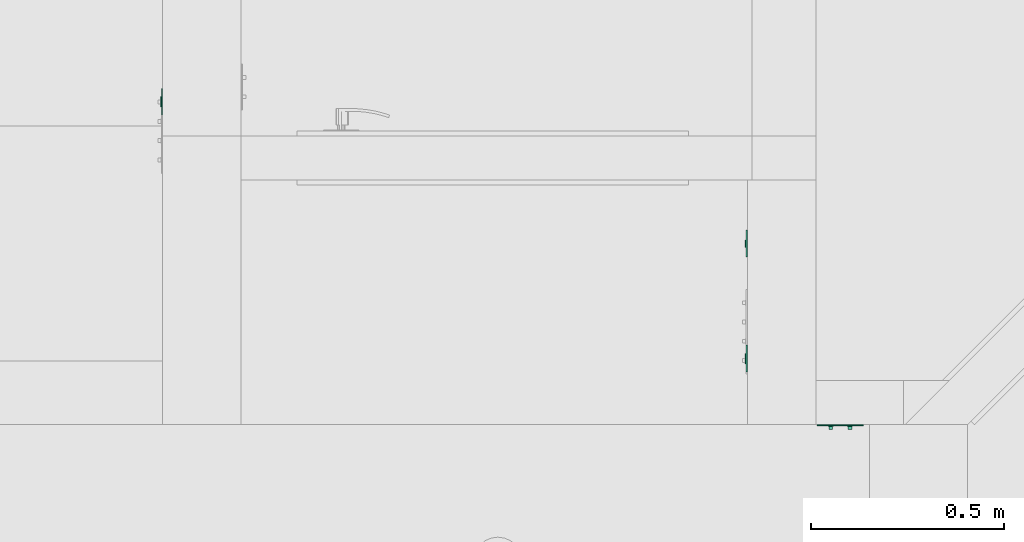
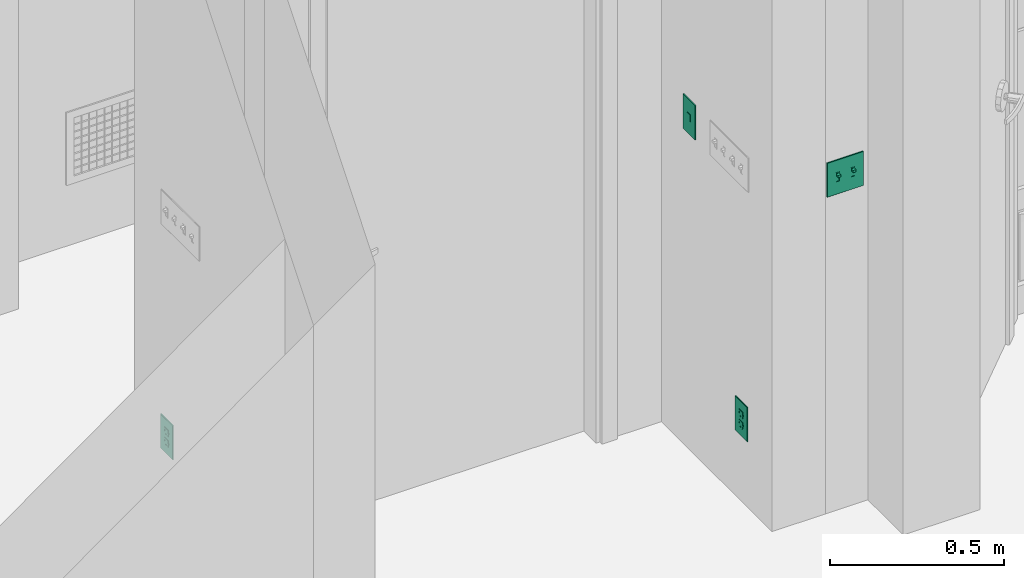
# One storey, part 21 of 103: 4 flow controllers.
"""IFC2X3 building model written with IfcOpenShell, lengths in inches."""

from ifc_helpers import new_model, entity, si_unit, converted_unit, derived_unit, money_unit, direction, frame, origin_with_axes, place, context, subcontext, project, spatial, faceted_brep, source, transform, mapped, type_object, element, save


model = new_model("IFC2X3")

# Units and contexts
model_context = context("Model", 3, precision=0.00039370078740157, world=origin_with_axes(), true_north=direction((0.0, 1.0)))
plan_context = context("Plan", 3, precision=0.00039370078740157, world=origin_with_axes(), true_north=direction((0.0, 1.0)))
body_context = subcontext(model_context, "Body", "Model", "MODEL_VIEW")
ifc_project = project(units=[converted_unit("LENGTHUNIT", "INCH", entity("IfcPositiveLengthMeasure", 0.0254), si_unit("LENGTHUNIT", "METRE"), dimensions=[1, 0, 0, 0, 0, 0, 0]), converted_unit("AREAUNIT", "SQUARE_FOOT", entity("IfcPositiveLengthMeasure", 0.09290304), si_unit("AREAUNIT", "SQUARE_METRE"), dimensions=[2, 0, 0, 0, 0, 0, 0]), si_unit("PLANEANGLEUNIT", "RADIAN"), si_unit("SOLIDANGLEUNIT", "STERADIAN"), money_unit("USD"), converted_unit("TIMEUNIT", "Year", entity("IfcTimeMeasure", 31557600.0), si_unit("TIMEUNIT", "SECOND"), dimensions=[0, 0, 1, 0, 0, 0, 0]), si_unit("MASSUNIT", "GRAM", prefix="KILO"), si_unit("THERMODYNAMICTEMPERATUREUNIT", "DEGREE_CELSIUS"), si_unit("LUMINOUSINTENSITYUNIT", "LUMEN"), si_unit("ENERGYUNIT", "JOULE", prefix="MEGA"), derived_unit("SPECIFICHEATCAPACITYUNIT", [(si_unit("ENERGYUNIT", "JOULE"), 1), (si_unit("MASSUNIT", "GRAM", prefix="KILO"), -1), (si_unit("THERMODYNAMICTEMPERATUREUNIT", "KELVIN"), -1)])], contexts=[model_context, plan_context])

# Site, building, storey
site_placement = place(None, origin_with_axes())
site = spatial("IfcSite", under=ifc_project, at=site_placement, Name="Site", CompositionType="ELEMENT")
building_placement = place(site_placement, origin_with_axes())
building = spatial("IfcBuilding", under=site, at=building_placement, Name="Building", CompositionType="ELEMENT")
storey_placement = place(building_placement, frame((0.0, 0.0, 127.9999999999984), z_axis=(0.0, 0.0, 1.0), x_axis=(1.0, 0.0, 0.0)))
storey = spatial("IfcBuildingStorey", under=building, at=storey_placement, Name="Second Floor", CompositionType="ELEMENT", Elevation=128.0)

# Flow controllers
switching_device_type_1 = type_object("IfcSwitchingDeviceType", Name="Outlet 1 US", PredefinedType="NOTDEFINED")
shared_shape_1 = source(origin_with_axes(), body_context, "Body", "Brep", [
    faceted_brep([(0.39370078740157, -0.03444881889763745, -1.18110236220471), (0.5436477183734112, -0.03444881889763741, -0.7086614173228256), (0.5436477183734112, -0.2165354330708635, -0.7086614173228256), (0.39370078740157, -0.2165354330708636, -1.18110236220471), (-0.3937007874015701, -0.03444881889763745, -1.181102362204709), (-0.543647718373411, -0.03444881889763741, -0.7086614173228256), (-0.39370078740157, -0.03444881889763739, -0.2362204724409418), (0.3937007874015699, -0.03444881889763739, -0.2362204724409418), (-0.196850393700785, -0.03444881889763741, -0.7086614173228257), (-0.196850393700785, -0.0344488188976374, -0.4724409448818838), (-0.275590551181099, -0.0344488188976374, -0.4724409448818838), (-0.275590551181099, -0.03444881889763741, -0.7086614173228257), (0.196850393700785, -0.03444881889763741, -0.7086614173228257), (0.275590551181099, -0.03444881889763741, -0.7086614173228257), (0.275590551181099, -0.0344488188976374, -0.4724409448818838), (0.196850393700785, -0.0344488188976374, -0.4724409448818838), (-0.078740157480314, -0.03444881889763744, -1.102362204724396), (0.078740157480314, -0.03444881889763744, -1.102362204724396), (0.078740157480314, -0.03444881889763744, -1.023622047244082), (0.06819097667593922, -0.03444881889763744, -0.9842519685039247), (0.03937007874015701, -0.03444881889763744, -0.9554310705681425), (0.0, -0.03444881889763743, -0.9448818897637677), (-0.03937007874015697, -0.03444881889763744, -0.9554310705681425), (-0.06819097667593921, -0.03444881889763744, -0.9842519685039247), (-0.078740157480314, -0.03444881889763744, -1.023622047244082), (0.3937007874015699, -0.2165354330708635, -0.2362204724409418), (-0.39370078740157, -0.2165354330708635, -0.2362204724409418), (-0.543647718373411, -0.2165354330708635, -0.7086614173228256), (-0.3937007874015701, -0.2165354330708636, -1.181102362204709), (-0.196850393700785, -0.2165354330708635, -0.7086614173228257), (-0.275590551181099, -0.2165354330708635, -0.7086614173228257), (-0.275590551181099, -0.2165354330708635, -0.4724409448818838), (-0.196850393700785, -0.2165354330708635, -0.4724409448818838), (0.196850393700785, -0.2165354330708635, -0.7086614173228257), (0.196850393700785, -0.2165354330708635, -0.4724409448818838), (0.275590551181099, -0.2165354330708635, -0.4724409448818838), (0.275590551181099, -0.2165354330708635, -0.7086614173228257), (-0.078740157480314, -0.2165354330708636, -1.102362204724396), (-0.078740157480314, -0.2165354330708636, -1.023622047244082), (-0.06819097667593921, -0.2165354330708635, -0.9842519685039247), (-0.03937007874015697, -0.2165354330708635, -0.9554310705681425), (0.0, -0.2165354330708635, -0.9448818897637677), (0.03937007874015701, -0.2165354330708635, -0.9554310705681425), (0.06819097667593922, -0.2165354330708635, -0.9842519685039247), (0.078740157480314, -0.2165354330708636, -1.023622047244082), (0.078740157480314, -0.2165354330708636, -1.102362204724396)], [[[0, 1, 2, 3]], [[0, 4, 5, 6, 7, 1], [8, 9, 10, 11], [12, 13, 14, 15], [16, 17, 18, 19, 20, 21, 22, 23, 24]], [[1, 7, 25, 2]], [[3, 2, 25, 26, 27, 28], [29, 30, 31, 32], [33, 34, 35, 36], [37, 38, 39, 40, 41, 42, 43, 44, 45]], [[4, 0, 3, 28]], [[5, 4, 28, 27]], [[6, 5, 27, 26]], [[7, 6, 26, 25]], [[9, 8, 29, 32]], [[10, 9, 32, 31]], [[11, 10, 31, 30]], [[8, 11, 30, 29]], [[13, 12, 33, 36]], [[14, 13, 36, 35]], [[15, 14, 35, 34]], [[12, 15, 34, 33]], [[17, 16, 37, 45]], [[18, 17, 45, 44]], [[19, 18, 44, 43]], [[20, 19, 43, 42]], [[21, 20, 42, 41]], [[22, 21, 41, 40]], [[23, 22, 40, 39]], [[24, 23, 39, 38]], [[16, 24, 38, 37]]]),
    faceted_brep([(0.39370078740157, -0.03444881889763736, 0.2362204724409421), (0.5436477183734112, -0.03444881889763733, 0.7086614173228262), (0.5436477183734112, -0.2165354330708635, 0.7086614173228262), (0.39370078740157, -0.2165354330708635, 0.2362204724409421), (-0.3937007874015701, -0.03444881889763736, 0.2362204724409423), (-0.543647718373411, -0.03444881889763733, 0.7086614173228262), (-0.39370078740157, -0.0344488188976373, 1.18110236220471), (0.3937007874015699, -0.0344488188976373, 1.18110236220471), (-0.196850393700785, -0.03444881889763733, 0.7086614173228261), (-0.196850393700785, -0.03444881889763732, 0.944881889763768), (-0.275590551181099, -0.03444881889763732, 0.944881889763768), (-0.275590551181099, -0.03444881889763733, 0.7086614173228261), (0.196850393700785, -0.03444881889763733, 0.7086614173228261), (0.275590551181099, -0.03444881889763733, 0.7086614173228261), (0.275590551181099, -0.03444881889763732, 0.944881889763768), (0.196850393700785, -0.03444881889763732, 0.944881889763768), (-0.078740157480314, -0.03444881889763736, 0.3149606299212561), (0.078740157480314, -0.03444881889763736, 0.3149606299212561), (0.078740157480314, -0.03444881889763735, 0.3937007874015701), (0.06819097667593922, -0.03444881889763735, 0.4330708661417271), (0.03937007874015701, -0.03444881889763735, 0.4618917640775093), (0.0, -0.03444881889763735, 0.472440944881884), (-0.03937007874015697, -0.03444881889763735, 0.4618917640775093), (-0.06819097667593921, -0.03444881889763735, 0.4330708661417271), (-0.078740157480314, -0.03444881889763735, 0.3937007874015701), (0.3937007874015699, -0.2165354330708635, 1.18110236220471), (-0.39370078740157, -0.2165354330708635, 1.18110236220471), (-0.543647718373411, -0.2165354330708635, 0.7086614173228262), (-0.3937007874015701, -0.2165354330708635, 0.2362204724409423), (-0.196850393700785, -0.2165354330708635, 0.7086614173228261), (-0.275590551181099, -0.2165354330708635, 0.7086614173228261), (-0.275590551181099, -0.2165354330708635, 0.944881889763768), (-0.196850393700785, -0.2165354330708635, 0.944881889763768), (0.196850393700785, -0.2165354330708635, 0.7086614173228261), (0.196850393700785, -0.2165354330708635, 0.944881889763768), (0.275590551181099, -0.2165354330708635, 0.944881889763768), (0.275590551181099, -0.2165354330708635, 0.7086614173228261), (-0.078740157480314, -0.2165354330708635, 0.3149606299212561), (-0.078740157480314, -0.2165354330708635, 0.3937007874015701), (-0.06819097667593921, -0.2165354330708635, 0.4330708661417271), (-0.03937007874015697, -0.2165354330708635, 0.4618917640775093), (0.0, -0.2165354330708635, 0.472440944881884), (0.03937007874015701, -0.2165354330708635, 0.4618917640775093), (0.06819097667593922, -0.2165354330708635, 0.4330708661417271), (0.078740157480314, -0.2165354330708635, 0.3937007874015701), (0.078740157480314, -0.2165354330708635, 0.3149606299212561)], [[[0, 1, 2, 3]], [[0, 4, 5, 6, 7, 1], [8, 9, 10, 11], [12, 13, 14, 15], [16, 17, 18, 19, 20, 21, 22, 23, 24]], [[1, 7, 25, 2]], [[3, 2, 25, 26, 27, 28], [29, 30, 31, 32], [33, 34, 35, 36], [37, 38, 39, 40, 41, 42, 43, 44, 45]], [[4, 0, 3, 28]], [[5, 4, 28, 27]], [[6, 5, 27, 26]], [[7, 6, 26, 25]], [[9, 8, 29, 32]], [[10, 9, 32, 31]], [[11, 10, 31, 30]], [[8, 11, 30, 29]], [[13, 12, 33, 36]], [[14, 13, 36, 35]], [[15, 14, 35, 34]], [[12, 15, 34, 33]], [[17, 16, 37, 45]], [[18, 17, 45, 44]], [[19, 18, 44, 43]], [[20, 19, 43, 42]], [[21, 20, 42, 41]], [[22, 21, 41, 40]], [[23, 22, 40, 39]], [[24, 23, 39, 38]], [[16, 24, 38, 37]]]),
    faceted_brep([(-1.343503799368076, -0.1377952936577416, -2.327755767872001), (1.343503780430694, -0.1377952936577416, -2.327755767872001), (1.343503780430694, -0.1377952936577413, 2.327755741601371), (-1.343503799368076, -0.1377952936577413, 2.327755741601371), (0.39370078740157, -0.1377952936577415, -1.18110236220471), (-0.3937007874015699, -0.1377952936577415, -1.181102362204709), (-0.5436477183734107, -0.1377952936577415, -0.7086614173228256), (-0.39370078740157, -0.1377952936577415, -0.2362204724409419), (0.3937007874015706, -0.1377952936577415, -0.2362204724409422), (0.5436477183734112, -0.1377952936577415, -0.7086614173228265), (-0.39370078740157, -0.1377952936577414, 1.18110236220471), (0.3937007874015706, -0.1377952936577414, 1.18110236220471), (0.5436477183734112, -0.1377952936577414, 0.7086614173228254), (0.39370078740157, -0.1377952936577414, 0.236220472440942), (-0.3937007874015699, -0.1377952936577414, 0.2362204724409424), (-0.5436477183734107, -0.1377952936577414, 0.7086614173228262), (-1.352419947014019, -0.1366214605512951, -2.336671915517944), (1.352419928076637, -0.1366214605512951, -2.336671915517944), (1.352419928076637, -0.1366214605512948, 2.336671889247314), (-1.352419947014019, -0.1366214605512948, 2.336671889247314), (0.39370078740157, -0.03444881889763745, -1.18110236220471), (-0.3937007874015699, -0.03444881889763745, -1.181102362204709), (-0.5436477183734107, -0.03444881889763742, -0.7086614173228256), (-0.39370078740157, -0.03444881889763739, -0.2362204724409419), (0.3937007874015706, -0.03444881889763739, -0.2362204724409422), (0.5436477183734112, -0.03444881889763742, -0.7086614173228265), (-0.39370078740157, -0.0344488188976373, 1.18110236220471), (0.3937007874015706, -0.0344488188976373, 1.18110236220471), (0.5436477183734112, -0.03444881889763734, 0.7086614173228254), (0.39370078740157, -0.03444881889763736, 0.236220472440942), (-0.3937007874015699, -0.03444881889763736, 0.2362204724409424), (-0.5436477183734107, -0.03444881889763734, 0.7086614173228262), (-1.36786294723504, -0.1277054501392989, -2.352114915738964), (1.367862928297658, -0.1277054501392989, -2.352114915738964), (1.367862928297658, -0.1277054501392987, 2.352114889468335), (-1.36786294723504, -0.1277054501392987, 2.352114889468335), (-1.376778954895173, -0.1122624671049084, -2.361030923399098), (1.376778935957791, -0.1122624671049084, -2.361030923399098), (1.376778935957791, -0.1122624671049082, 2.361030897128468), (-1.376778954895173, -0.1122624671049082, 2.361030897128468), (-1.377952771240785, -0.1033464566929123, -2.362204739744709), (1.377952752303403, -0.1033464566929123, -2.362204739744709), (1.377952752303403, -0.103346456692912, 2.36220471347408), (-1.377952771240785, -0.103346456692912, 2.36220471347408), (-1.377952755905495, 0.0, -2.36220472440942), (1.377952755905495, 0.0, -2.36220472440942), (1.377952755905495, 0.0, 2.36220472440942), (-1.377952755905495, 0.0, 2.36220472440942)], [[[0, 1, 2, 3], [4, 5, 6, 7, 8, 9], [10, 11, 12, 13, 14, 15]], [[1, 0, 16, 17]], [[2, 1, 17, 18]], [[3, 2, 18, 19]], [[0, 3, 19, 16]], [[4, 20, 21, 5]], [[5, 21, 22, 6]], [[6, 22, 23, 7]], [[7, 23, 24, 8]], [[8, 24, 25, 9]], [[9, 25, 20, 4]], [[11, 10, 26, 27]], [[12, 11, 27, 28]], [[13, 12, 28, 29]], [[14, 13, 29, 30]], [[15, 14, 30, 31]], [[10, 15, 31, 26]], [[17, 16, 32, 33]], [[18, 17, 33, 34]], [[19, 18, 34, 35]], [[16, 19, 35, 32]], [[22, 21, 20, 25, 24, 23]], [[28, 27, 26, 31, 30, 29]], [[33, 32, 36, 37]], [[34, 33, 37, 38]], [[35, 34, 38, 39]], [[32, 35, 39, 36]], [[37, 36, 40, 41]], [[38, 37, 41, 42]], [[39, 38, 42, 43]], [[36, 39, 43, 40]], [[41, 40, 44, 45]], [[42, 41, 45, 46]], [[43, 42, 46, 47]], [[40, 43, 47, 44]], [[46, 45, 44, 47]]]),
])
for number, where, z_axis, x_axis, name in (
    (1, (-16.00044576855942, 355.2453057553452, 11.49803149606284), (0.0, 0.0, 1.0), (2.019381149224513e-06, -0.9999999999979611, 0.0), "FU - 029"),
    (2, (-75.7499999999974, 381.4999999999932, 13.99803149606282), (0.0, 0.0, 1.0), (0.0, -1.0, 0.0), "FU - 029"),
):
    element("IfcFlowController", number, at=place(storey_placement, frame(where, z_axis=z_axis, x_axis=x_axis)), inside=storey, type_object=switching_device_type_1, Name=name, context=body_context, shape_type="MappedRepresentation", body=[
        mapped(shared_shape_1, transform((0.0, 0.0, 0.0))),
    ])
shared_shape_2 = source(origin_with_axes(), body_context, "Body", "Brep", [
    faceted_brep([(0.39370078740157, -0.0344488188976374, -0.472440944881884), (0.3937007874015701, -0.03444881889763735, 0.472440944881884), (0.3937007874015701, -0.2165354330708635, 0.472440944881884), (0.39370078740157, -0.2165354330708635, -0.472440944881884), (-0.3937007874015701, -0.0344488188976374, -0.4724409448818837), (-0.39370078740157, -0.03444881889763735, 0.472440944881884), (-0.39370078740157, -0.2165354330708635, 0.472440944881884), (-0.3937007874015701, -0.2165354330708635, -0.4724409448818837)], [[[0, 1, 2, 3]], [[0, 4, 5, 1]], [[1, 5, 6, 2]], [[3, 2, 6, 7]], [[4, 0, 3, 7]], [[5, 4, 7, 6]]]),
    faceted_brep([(1.377952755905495, -0.1377952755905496, -2.36220472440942), (1.377952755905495, -0.1377952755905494, 2.36220472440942), (-1.377952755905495, -0.1377952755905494, 2.36220472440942), (-1.377952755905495, -0.1377952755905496, -2.36220472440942), (-0.3937007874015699, -0.1377952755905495, -0.4724409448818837), (-0.39370078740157, -0.1377952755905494, 0.4724409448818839), (0.3937007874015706, -0.1377952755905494, 0.4724409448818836), (0.39370078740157, -0.1377952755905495, -0.472440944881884), (1.377952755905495, 0.0, 2.36220472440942), (1.377952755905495, 0.0, -2.36220472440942), (-1.377952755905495, 0.0, 2.36220472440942), (-1.377952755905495, 0.0, -2.36220472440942), (-0.3937007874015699, -0.0344488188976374, -0.4724409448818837), (-0.39370078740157, -0.03444881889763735, 0.4724409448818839), (0.3937007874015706, -0.03444881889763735, 0.4724409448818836), (0.39370078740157, -0.0344488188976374, -0.472440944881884)], [[[0, 1, 2, 3], [4, 5, 6, 7]], [[8, 1, 0, 9]], [[10, 2, 1, 8]], [[11, 3, 2, 10]], [[9, 0, 3, 11]], [[5, 4, 12, 13]], [[6, 5, 13, 14]], [[7, 6, 14, 15]], [[4, 7, 15, 12]], [[10, 8, 9, 11]], [[14, 13, 12, 15]]]),
])
flow_controller_1_placement = place(storey_placement, frame((-16.00046950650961, 367.0003675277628, 45.99999999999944), z_axis=(0.0, 0.0, 1.0), x_axis=(2.019381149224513e-06, -0.9999999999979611, 0.0)))
element("IfcFlowController", 3, at=flow_controller_1_placement, inside=storey, type_object=switching_device_type_1, Name="OBJ-05", context=body_context, shape_type="MappedRepresentation", body=[
    mapped(shared_shape_2, transform((0.0, 0.0, 0.0))),
])
switching_device_type_2 = type_object("IfcSwitchingDeviceType", Name="Switch US", PredefinedType="NOTDEFINED")
shared_shape_3 = source(origin_with_axes(), body_context, "Body", "Brep", [
    faceted_brep([(1.18110236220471, 0.0, -0.5905511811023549), (0.7874015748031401, 0.0, -0.5905511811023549), (0.7874015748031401, 0.0, 0.5905511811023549), (1.18110236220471, 0.0, 0.5905511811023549), (1.18110236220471, -0.1033464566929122, -0.5905511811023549), (0.7874015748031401, -0.1033464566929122, -0.5905511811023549), (0.7874015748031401, -0.1033464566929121, 0.157480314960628), (0.7874015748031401, -0.4970472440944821, 0.1574803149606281), (0.7874015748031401, -0.4970472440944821, 0.472440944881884), (0.7874015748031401, -0.1033464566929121, 0.472440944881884), (0.7874015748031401, -0.1033464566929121, 0.5905511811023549), (1.18110236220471, -0.103346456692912, 0.5905511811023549), (1.18110236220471, -0.1033464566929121, 0.472440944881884), (1.18110236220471, -0.4970472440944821, 0.472440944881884), (1.18110236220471, -0.4970472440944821, 0.1574803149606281), (1.18110236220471, -0.1033464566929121, 0.157480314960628)], [[[0, 1, 2, 3]], [[4, 5, 1, 0]], [[1, 5, 6, 7, 8, 9, 10, 2]], [[3, 2, 10, 11]], [[0, 3, 11, 12, 13, 14, 15, 4]], [[15, 6, 5, 4]], [[14, 7, 6, 15]], [[13, 8, 7, 14]], [[12, 9, 8, 13]], [[11, 10, 9, 12]]]),
    faceted_brep([(1.259842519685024, 0.0, -0.669291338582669), (1.259842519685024, -0.1771653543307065, -0.669291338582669), (0.7086614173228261, -0.1771653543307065, -0.669291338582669), (0.7086614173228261, 0.0, -0.669291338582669), (1.259842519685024, 0.0, 0.669291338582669), (1.259842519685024, -0.1771653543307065, 0.669291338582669), (0.7086614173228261, -0.1771653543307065, 0.669291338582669), (1.18110236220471, -0.1771653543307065, -0.5905511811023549), (0.78740157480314, -0.1771653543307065, -0.5905511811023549), (0.78740157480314, -0.1771653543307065, 0.5905511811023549), (1.18110236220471, -0.1771653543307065, 0.5905511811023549), (0.7086614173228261, 0.0, 0.669291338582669), (1.18110236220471, 0.0, -0.5905511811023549), (1.18110236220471, 0.0, 0.5905511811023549), (0.78740157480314, 0.0, 0.5905511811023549), (0.78740157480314, 0.0, -0.5905511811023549)], [[[0, 1, 2, 3]], [[4, 5, 1, 0]], [[1, 5, 6, 2], [7, 8, 9, 10]], [[3, 2, 6, 11]], [[0, 3, 11, 4], [12, 13, 14, 15]], [[11, 6, 5, 4]], [[15, 8, 7, 12]], [[14, 9, 8, 15]], [[13, 10, 9, 14]], [[12, 7, 10, 13]]]),
    faceted_brep([(0.0, -0.103346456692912, 2.362204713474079), (2.362204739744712, -0.103346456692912, 2.362204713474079), (2.36220472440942, 0.0, 2.36220472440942), (0.0, 0.0, 2.36220472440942), (0.0, -0.1122624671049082, 2.361030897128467), (2.361030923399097, -0.1122624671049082, 2.361030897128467), (2.362204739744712, -0.1033464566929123, -2.36220473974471), (2.36220472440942, 0.0, -2.36220472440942), (0.0, 0.0, -2.36220472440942), (0.7086614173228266, 0.0, -0.669291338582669), (1.259842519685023, 0.0, -0.669291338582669), (1.259842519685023, 0.0, 0.669291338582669), (0.7086614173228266, 0.0, 0.669291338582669), (0.0, -0.1033464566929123, -2.36220473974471), (0.0, -0.1122624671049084, -2.361030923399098), (0.0, -0.1277054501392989, -2.352114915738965), (0.0, -0.1366214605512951, -2.336671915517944), (0.0, -0.1377952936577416, -2.327755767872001), (0.0, -0.1377952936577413, 2.32775574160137), (0.0, -0.1366214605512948, 2.336671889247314), (0.0, -0.1277054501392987, 2.352114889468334), (2.352114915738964, -0.1277054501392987, 2.352114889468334), (2.361030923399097, -0.1122624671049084, -2.361030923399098), (0.7086614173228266, -0.1377952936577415, -0.669291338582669), (1.259842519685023, -0.1377952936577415, -0.669291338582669), (1.259842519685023, -0.1377952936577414, 0.669291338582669), (0.7086614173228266, -0.1377952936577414, 0.669291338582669), (2.352114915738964, -0.1277054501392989, -2.352114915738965), (2.336671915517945, -0.1366214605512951, -2.336671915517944), (2.327755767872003, -0.1377952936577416, -2.327755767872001), (2.327755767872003, -0.1377952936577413, 2.32775574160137), (2.336671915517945, -0.1366214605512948, 2.336671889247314)], [[[0, 1, 2, 3]], [[4, 5, 1, 0]], [[6, 7, 2, 1]], [[3, 2, 7, 8], [9, 10, 11, 12]], [[8, 13, 14, 15, 16, 17, 18, 19, 20, 4, 0, 3]], [[20, 21, 5, 4]], [[22, 6, 1, 5]], [[8, 7, 6, 13]], [[10, 9, 23, 24]], [[11, 10, 24, 25]], [[12, 11, 25, 26]], [[9, 12, 26, 23]], [[13, 6, 22, 14]], [[14, 22, 27, 15]], [[15, 27, 28, 16]], [[16, 28, 29, 17]], [[17, 29, 30, 18], [25, 24, 23, 26]], [[18, 30, 31, 19]], [[19, 31, 21, 20]], [[27, 22, 5, 21]], [[28, 27, 21, 31]], [[29, 28, 31, 30]]]),
    faceted_brep([(-0.78740157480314, 0.0, -0.5905511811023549), (-1.18110236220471, 0.0, -0.5905511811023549), (-1.18110236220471, 0.0, 0.5905511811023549), (-0.78740157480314, 0.0, 0.5905511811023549), (-0.78740157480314, -0.1033464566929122, -0.5905511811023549), (-1.18110236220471, -0.1033464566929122, -0.5905511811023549), (-1.18110236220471, -0.1033464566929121, 0.157480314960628), (-1.18110236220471, -0.4970472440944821, 0.1574803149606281), (-1.18110236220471, -0.4970472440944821, 0.472440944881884), (-1.18110236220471, -0.1033464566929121, 0.472440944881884), (-1.18110236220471, -0.1033464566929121, 0.5905511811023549), (-0.78740157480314, -0.103346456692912, 0.5905511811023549), (-0.78740157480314, -0.1033464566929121, 0.472440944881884), (-0.78740157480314, -0.4970472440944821, 0.472440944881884), (-0.78740157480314, -0.4970472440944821, 0.1574803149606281), (-0.78740157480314, -0.1033464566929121, 0.157480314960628)], [[[0, 1, 2, 3]], [[4, 5, 1, 0]], [[1, 5, 6, 7, 8, 9, 10, 2]], [[3, 2, 10, 11]], [[0, 3, 11, 12, 13, 14, 15, 4]], [[15, 6, 5, 4]], [[14, 7, 6, 15]], [[13, 8, 7, 14]], [[12, 9, 8, 13]], [[11, 10, 9, 12]]]),
    faceted_brep([(-0.7086614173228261, 0.0, -0.669291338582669), (-0.7086614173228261, -0.1771653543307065, -0.669291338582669), (-1.259842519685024, -0.1771653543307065, -0.669291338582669), (-1.259842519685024, 0.0, -0.669291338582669), (-0.7086614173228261, 0.0, 0.669291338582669), (-0.7086614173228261, -0.1771653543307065, 0.669291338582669), (-1.259842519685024, -0.1771653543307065, 0.669291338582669), (-0.78740157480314, -0.1771653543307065, -0.5905511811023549), (-1.18110236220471, -0.1771653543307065, -0.5905511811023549), (-1.18110236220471, -0.1771653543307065, 0.5905511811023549), (-0.78740157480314, -0.1771653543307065, 0.5905511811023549), (-1.259842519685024, 0.0, 0.669291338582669), (-0.78740157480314, 0.0, -0.5905511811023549), (-0.78740157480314, 0.0, 0.5905511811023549), (-1.18110236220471, 0.0, 0.5905511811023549), (-1.18110236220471, 0.0, -0.5905511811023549)], [[[0, 1, 2, 3]], [[4, 5, 1, 0]], [[1, 5, 6, 2], [7, 8, 9, 10]], [[3, 2, 6, 11]], [[0, 3, 11, 4], [12, 13, 14, 15]], [[11, 6, 5, 4]], [[15, 8, 7, 12]], [[14, 9, 8, 15]], [[13, 10, 9, 14]], [[12, 7, 10, 13]]]),
    faceted_brep([(0.0, 0.0, -2.36220472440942), (-2.362204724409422, 0.0, -2.36220472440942), (-2.362204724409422, 0.0, 2.36220472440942), (0.0, 0.0, 2.36220472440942), (-1.259842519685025, 0.0, -0.669291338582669), (-0.7086614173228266, 0.0, -0.669291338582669), (-0.7086614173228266, 0.0, 0.669291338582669), (-1.259842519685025, 0.0, 0.669291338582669), (0.0, -0.1033464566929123, -2.36220473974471), (-2.362204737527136, -0.1033464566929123, -2.36220473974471), (-2.362204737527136, -0.103346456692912, 2.362204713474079), (0.0, -0.103346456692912, 2.362204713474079), (0.0, -0.1122624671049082, 2.361030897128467), (0.0, -0.1277054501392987, 2.352114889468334), (0.0, -0.1366214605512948, 2.336671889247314), (0.0, -0.1377952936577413, 2.32775574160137), (0.0, -0.1377952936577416, -2.327755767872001), (0.0, -0.1366214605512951, -2.336671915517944), (0.0, -0.1277054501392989, -2.352114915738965), (0.0, -0.1122624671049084, -2.361030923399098), (-1.259842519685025, -0.1377952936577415, -0.669291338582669), (-0.7086614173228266, -0.1377952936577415, -0.669291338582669), (-0.7086614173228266, -0.1377952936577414, 0.669291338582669), (-1.259842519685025, -0.1377952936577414, 0.669291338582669), (-2.361030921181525, -0.1122624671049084, -2.361030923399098), (-2.361030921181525, -0.1122624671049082, 2.361030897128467), (-2.352114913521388, -0.1277054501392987, 2.352114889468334), (-2.336671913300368, -0.1366214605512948, 2.336671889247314), (-2.327755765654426, -0.1377952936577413, 2.32775574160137), (-2.327755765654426, -0.1377952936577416, -2.327755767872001), (-2.336671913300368, -0.1366214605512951, -2.336671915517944), (-2.352114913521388, -0.1277054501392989, -2.352114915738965)], [[[0, 1, 2, 3], [4, 5, 6, 7]], [[8, 9, 1, 0]], [[10, 2, 1, 9]], [[3, 2, 10, 11]], [[11, 12, 13, 14, 15, 16, 17, 18, 19, 8, 0, 3]], [[5, 4, 20, 21]], [[6, 5, 21, 22]], [[7, 6, 22, 23]], [[4, 7, 23, 20]], [[19, 24, 9, 8]], [[25, 10, 9, 24]], [[11, 10, 25, 12]], [[12, 25, 26, 13]], [[13, 26, 27, 14]], [[14, 27, 28, 15]], [[15, 28, 29, 16], [22, 21, 20, 23]], [[16, 29, 30, 17]], [[17, 30, 31, 18]], [[18, 31, 24, 19]], [[26, 25, 24, 31]], [[27, 26, 31, 30]], [[28, 27, 30, 29]]]),
])
flow_controller_2_placement = place(storey_placement, frame((-6.499417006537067, 348.5003996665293, 45.99999999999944), z_axis=(0.0, 0.0, 1.0), x_axis=(0.9999999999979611, 2.01938114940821e-06, 0.0)))
element("IfcFlowController", 4, at=flow_controller_2_placement, inside=storey, type_object=switching_device_type_2, Name="OBJ-09", context=body_context, shape_type="MappedRepresentation", body=[
    mapped(shared_shape_3, transform((0.0, 0.0, 0.0))),
])

save(model, "model.ifc")
